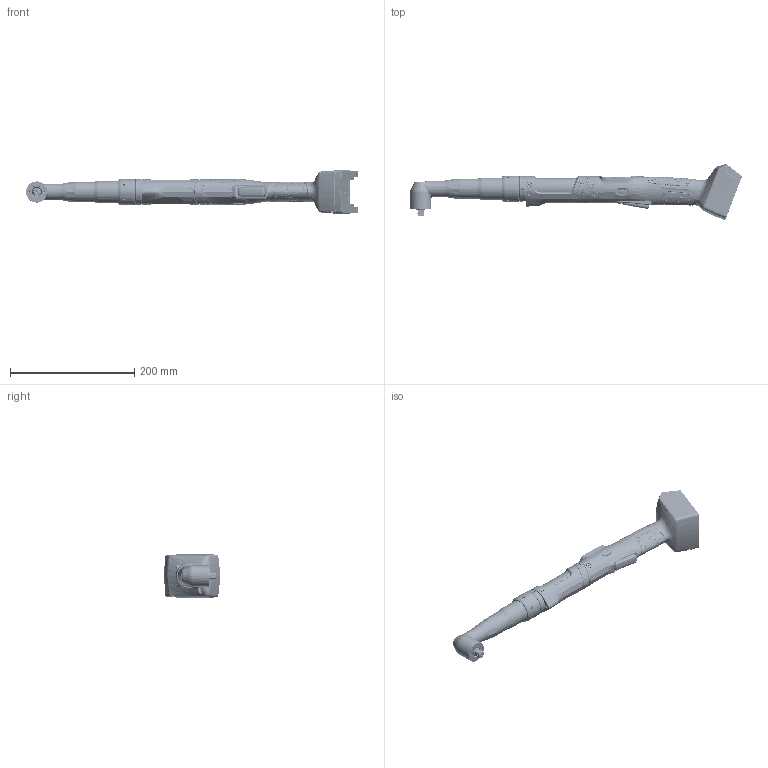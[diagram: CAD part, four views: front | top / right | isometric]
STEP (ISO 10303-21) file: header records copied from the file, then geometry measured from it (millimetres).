
FILE_DESCRIPTION((''),'2;1');
FILE_NAME('ASM0002_ASM','2019-12-09T',('A1X81'),(''),'CREO PARAMETRIC BY PTC INC, 2016050','CREO PARAMETRIC BY PTC INC, 2016050','');
FILE_SCHEMA(('CONFIG_CONTROL_DESIGN'));
Products named in the file (66): T50-3000249_SKEL_1_1; T50-3000229_SKEL_1_1; T50-1000607_1_1; T50-1000623_INSTALL_1_1; T50-3000229_ASM_1_1_ASM; T50-1000349-1_1_1; T50-1000349-2_1_1; T50-1000349-3_1_1; T50-1000349-4_1_1; T50-1000349-5_1_1; T50-1000349_ASM_1_1_ASM; T50-1000257_1_1; 207914PT_1_1; T50-3000139_ASM_1_1_ASM; T50-1000642_1_1; WP154A4_CELLTEK_RA_INSTALLED__1; T55-1000072_INSTALL_CELLTEK_R_1_ASM; T50-1000616_4_1; M30X226S_1_1; T50-1000616_ASM_1_1_ASM; T50-1000721_1_1; T50-3000280_SKEL_1_1; T50-1000680-1_1_1; T50-1000631_1_1; T50-1000630-1_INSTALL_1_1; T50-1000630-2_INSTALL_1_1; T50-1000630-3_1_1; T50-1000630-5_1_1; T50-1000630-4_1_1; T50-1000630-6_1_1; T50-1000630-7_1_1; T50-1000630-11_1_1; T50-1000630-8_INSTALL_1_1; T50-1000630-10_1_1; T50-1000630-9_1_1; T50-1000630-12_INSTALL_1_1; T50-1000630_INSTALL_ASM_1_1_ASM; T50-3000280_ASM_1_1_ASM; T50-1000604_1_1; T50-1000615_3_1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
Assembly tree (83 placements, depth 6):
  ASM0002_ASM
    CTBAW503_ASM_2_ASM
      T50-3000249_ASM_5_1_ASM
        T50-3000249_SKEL_1_1
        T50-3000229_ASM_1_1_ASM
          T50-3000229_SKEL_1_1
          T50-1000607_1_1
          T50-1000623_INSTALL_1_1
        T50-1000349_ASM_1_1_ASM
          T50-1000349-1_1_1
          T50-1000349-2_1_1
          T50-1000349-3_1_1
          T50-1000349-4_1_1
          T50-1000349-5_1_1
        T50-3000139_ASM_1_1_ASM  x2
          T50-1000257_1_1
          207914PT_1_1
        T50-1000642_1_1
        T55-1000072_INSTALL_CELLTEK_R_1_ASM
          WP154A4_CELLTEK_RA_INSTALLED__1
        T50-1000616_ASM_1_1_ASM
          T50-1000616_4_1
          M30X226S_1_1  x5
        T50-1000721_1_1  x2
        T50-3000280_ASM_1_1_ASM
          T50-3000280_SKEL_1_1
          T50-1000680-1_1_1
          T50-1000631_1_1
          T50-1000630_INSTALL_ASM_1_1_ASM
            T50-1000630-1_INSTALL_1_1
            T50-1000630-2_INSTALL_1_1
            T50-1000630-3_1_1
            T50-1000630-5_1_1
            T50-1000630-4_1_1
            T50-1000630-6_1_1
            T50-1000630-7_1_1
            T50-1000630-11_1_1
            T50-1000630-8_INSTALL_1_1
            T50-1000630-10_1_1
            T50-1000630-9_1_1
            T50-1000630-12_INSTALL_1_1
        T50-1000604_1_1
        T50-1000615_3_1
        T50-3000341_ASM_1_1_ASM
          T50-1000637_1_1
        843280_1_1
        T50-1000327-3_1_1  x5
        931791_1_1  x2
        T50-1001028_1_1  x8
      T50-1000722_INSTALLED_2_1
      T50-1000832_1_1
      T50-3000346_ASM_1_ASM
        T50-1000695_1
        T50-1000610_1_1
        T50-1000915-1_1_1
        T50-1000915-2_1_1
        T50-1000915-3_1_1
        936905PT_ASM_1_ASM
          936915PT_1
          936935PT_ASM_1_ASM
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Bounding box: 534.91 x 89.71 x 69.68 mm (x, y, z)
Volume: 114374.9 mm3; surface area: 264955.3 mm2
Topology: 66 solids, 70 shells, 13342 faces, 32775 edges, 19090 vertices
Faces by surface type: bspline 4248, cylinder 4142, plane 2249, sphere 936, torus 889, cone 619, extrusion 259
Entity records: 633971 total; most frequent: CARTESIAN_POINT 380543, ORIENTED_EDGE 60234, DIRECTION 40795, EDGE_CURVE 30211, VERTEX_POINT 17922, AXIS2_PLACEMENT_3D 15963, B_SPLINE_CURVE_WITH_KNOTS 14353, EDGE_LOOP 12978
